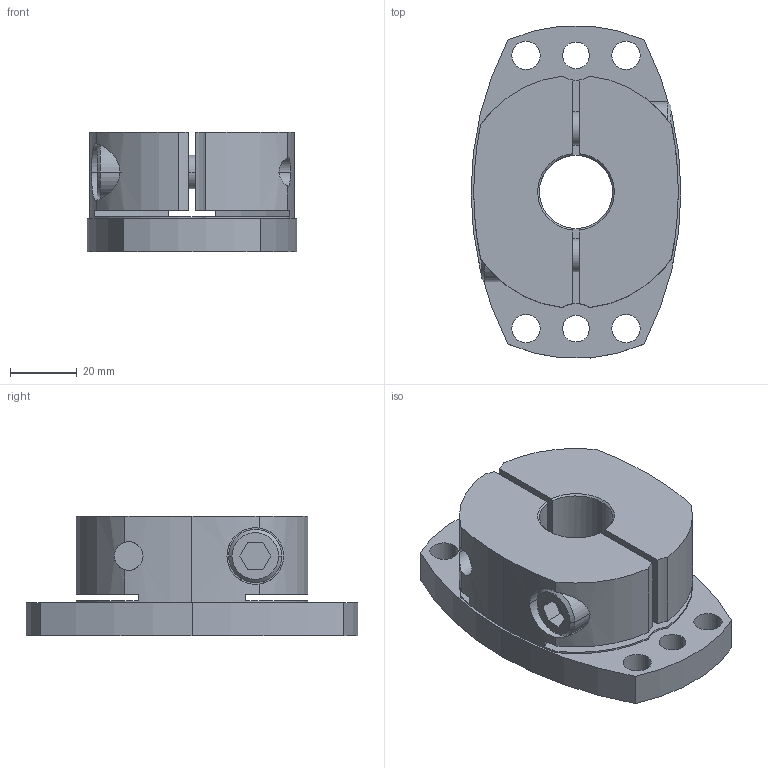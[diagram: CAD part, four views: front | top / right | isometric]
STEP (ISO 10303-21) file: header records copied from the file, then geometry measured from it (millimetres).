
FILE_DESCRIPTION((''),'2;1');
FILE_NAME('SHDB-100B-22.stp','2026-01-28T08:38:22',(''),(''),'AutoCAD STEP 2000i','AutoCAD 2000i',', , ');
FILE_SCHEMA(('CONFIG_CONTROL_DESIGN'));
Length unit declared in the file: millimetre
Products named in the file (2): SHDB-100B-20; 忣兜1
Assembly tree (1 placements, depth 2):
  SHDB-100B-20
    忣兜1
Bounding box: 63 x 99.64 x 36 mm (x, y, z)
Volume: 121126.5 mm3; surface area: 30732.3 mm2
Topology: 1 solids, 1 shells, 102 faces, 280 edges, 184 vertices
Faces by surface type: cylinder 58, plane 34, cone 10
Entity records: 3723 total; most frequent: CARTESIAN_POINT 896, DIRECTION 602, ORIENTED_EDGE 560, EDGE_CURVE 280, AXIS2_PLACEMENT_3D 238, VERTEX_POINT 184, CIRCLE 134, VECTOR 126
